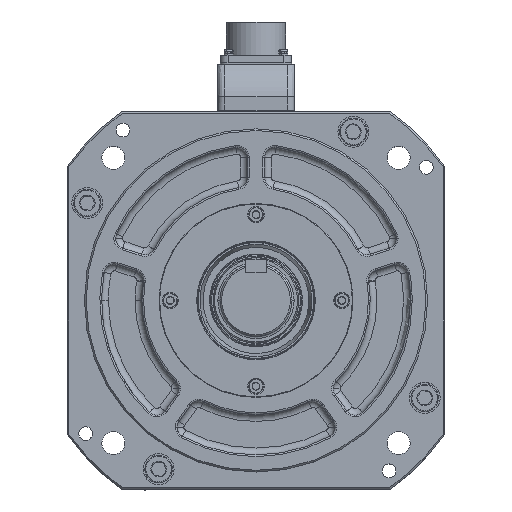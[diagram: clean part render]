
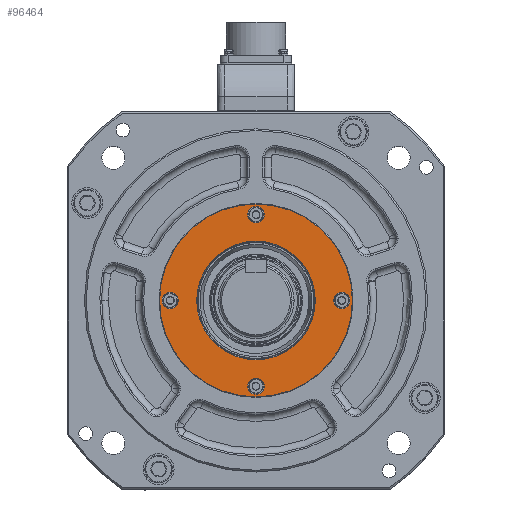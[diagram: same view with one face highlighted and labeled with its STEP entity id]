
A CAD part, top view. The second image highlights one B-rep face of the part: STEP entity #96464.
In plain terms, the highlighted planar face has unit normal (0, 0, 1).
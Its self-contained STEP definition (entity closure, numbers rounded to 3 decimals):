
#21862 = CARTESIAN_POINT ( 'NONE',  ( 0., 0., 24. ) ) ;
#21981 = DIRECTION ( 'NONE',  ( 1., 0., 0. ) ) ;
#21994 = CARTESIAN_POINT ( 'NONE',  ( 0., -50., 24. ) ) ;
#21998 = CARTESIAN_POINT ( 'NONE',  ( 0., -50., 24. ) ) ;
#22004 = DIRECTION ( 'NONE',  ( 0., 0., 1. ) ) ;
#22010 = DIRECTION ( 'NONE',  ( 0., 0., 1. ) ) ;
#22015 = DIRECTION ( 'NONE',  ( 1., 0., 0. ) ) ;
#22017 = DIRECTION ( 'NONE',  ( 1., 0., 0. ) ) ;
#22020 = DIRECTION ( 'NONE',  ( 0., 0., 1. ) ) ;
#22022 = DIRECTION ( 'NONE',  ( 0., 0., 1. ) ) ;
#22028 = DIRECTION ( 'NONE',  ( 0., 0., 1. ) ) ;
#22046 = CARTESIAN_POINT ( 'NONE',  ( 0., 0., 24. ) ) ;
#22066 = DIRECTION ( 'NONE',  ( 1., 0., 0. ) ) ;
#22088 = DIRECTION ( 'NONE',  ( 1., 0., 0. ) ) ;
#22098 = CARTESIAN_POINT ( 'NONE',  ( -50., 0., 24. ) ) ;
#22103 = CARTESIAN_POINT ( 'NONE',  ( 0., 50., 24. ) ) ;
#22122 = DIRECTION ( 'NONE',  ( 0., 0., 1. ) ) ;
#22134 = CARTESIAN_POINT ( 'NONE',  ( 0., 0., 24. ) ) ;
#22137 = DIRECTION ( 'NONE',  ( 0., 0., 1. ) ) ;
#22138 = DIRECTION ( 'NONE',  ( 1., 0., 0. ) ) ;
#22146 = DIRECTION ( 'NONE',  ( 0., 0., 1. ) ) ;
#22148 = DIRECTION ( 'NONE',  ( 1., 0., 0. ) ) ;
#22162 = CARTESIAN_POINT ( 'NONE',  ( 50., 0., 24. ) ) ;
#22175 = DIRECTION ( 'NONE',  ( 0., 0., 1. ) ) ;
#22209 = DIRECTION ( 'NONE',  ( 1., 0., 0. ) ) ;
#22219 = CARTESIAN_POINT ( 'NONE',  ( 0., 0., 24. ) ) ;
#22224 = DIRECTION ( 'NONE',  ( 1., 0., 0. ) ) ;
#22524 = DIRECTION ( 'NONE',  ( 0., 0., 1. ) ) ;
#22526 = CARTESIAN_POINT ( 'NONE',  ( -50., 0., 24. ) ) ;
#22581 = DIRECTION ( 'NONE',  ( 1., 0., 0. ) ) ;
#22670 = CARTESIAN_POINT ( 'NONE',  ( 50., 0., 24. ) ) ;
#22672 = DIRECTION ( 'NONE',  ( 0., 0., 1. ) ) ;
#22679 = DIRECTION ( 'NONE',  ( 1., 0., 0. ) ) ;
#23085 = DIRECTION ( 'NONE',  ( 1., 0., 0. ) ) ;
#23086 = DIRECTION ( 'NONE',  ( 0., 0., 1. ) ) ;
#23111 = CARTESIAN_POINT ( 'NONE',  ( 0., 50., 24. ) ) ;
#26599 = AXIS2_PLACEMENT_3D ( 'NONE', #22134, #22137, #22209 ) ;
#26602 = CIRCLE ( 'NONE', #26605, 56.2 ) ;
#26605 = AXIS2_PLACEMENT_3D ( 'NONE', #21862, #22010, #22066 ) ;
#26607 = AXIS2_PLACEMENT_3D ( 'NONE', #22046, #22028, #22088 ) ;
#26609 = CIRCLE ( 'NONE', #26617, 4.75 ) ;
#26610 = AXIS2_PLACEMENT_3D ( 'NONE', #22162, #22146, #22148 ) ;
#26611 = CIRCLE ( 'NONE', #26620, 4.75 ) ;
#26612 = CIRCLE ( 'NONE', #26639, 4.75 ) ;
#26614 = CIRCLE ( 'NONE', #26607, 34.546 ) ;
#26617 = AXIS2_PLACEMENT_3D ( 'NONE', #22103, #22175, #22138 ) ;
#26620 = AXIS2_PLACEMENT_3D ( 'NONE', #21994, #22022, #22015 ) ;
#26621 = AXIS2_PLACEMENT_3D ( 'NONE', #22098, #22004, #21981 ) ;
#26622 = AXIS2_PLACEMENT_3D ( 'NONE', #22219, #22122, #22224 ) ;
#26639 = AXIS2_PLACEMENT_3D ( 'NONE', #21998, #22020, #22017 ) ;
#26640 = CIRCLE ( 'NONE', #26621, 4.75 ) ;
#26652 = CIRCLE ( 'NONE', #26622, 34.546 ) ;
#26653 = CIRCLE ( 'NONE', #26610, 4.75 ) ;
#26654 = CIRCLE ( 'NONE', #26599, 56.2 ) ;
#26662 = CIRCLE ( 'NONE', #26712, 4.75 ) ;
#26682 = CIRCLE ( 'NONE', #26692, 4.75 ) ;
#26692 = AXIS2_PLACEMENT_3D ( 'NONE', #22526, #22524, #22581 ) ;
#26712 = AXIS2_PLACEMENT_3D ( 'NONE', #22670, #22672, #22679 ) ;
#26724 = CIRCLE ( 'NONE', #26757, 4.75 ) ;
#26757 = AXIS2_PLACEMENT_3D ( 'NONE', #23111, #23086, #23085 ) ;
#43004 = AXIS2_PLACEMENT_3D ( 'NONE', #79554, #79524, #79558 ) ;
#77144 = CARTESIAN_POINT ( 'NONE',  ( 4.75, 50., 24. ) ) ;
#77147 = CARTESIAN_POINT ( 'NONE',  ( -54.75, 0., 24. ) ) ;
#77247 = CARTESIAN_POINT ( 'NONE',  ( -45.25, 0., 24. ) ) ;
#77437 = CARTESIAN_POINT ( 'NONE',  ( 34.546, 0., 24. ) ) ;
#77509 = CARTESIAN_POINT ( 'NONE',  ( -56.2, 0., 24. ) ) ;
#77522 = CARTESIAN_POINT ( 'NONE',  ( -4.75, -50., 24. ) ) ;
#77528 = CARTESIAN_POINT ( 'NONE',  ( 4.75, -50., 24. ) ) ;
#77544 = CARTESIAN_POINT ( 'NONE',  ( -34.546, 0., 24. ) ) ;
#77555 = CARTESIAN_POINT ( 'NONE',  ( -4.75, 50., 24. ) ) ;
#77560 = CARTESIAN_POINT ( 'NONE',  ( 54.75, 0., 24. ) ) ;
#77641 = CARTESIAN_POINT ( 'NONE',  ( 45.25, 0., 24. ) ) ;
#79390 = FACE_BOUND ( 'NONE', #94034, .T. ) ;
#79396 = FACE_BOUND ( 'NONE', #94049, .T. ) ;
#79402 = FACE_BOUND ( 'NONE', #94019, .T. ) ;
#79425 = FACE_BOUND ( 'NONE', #94070, .T. ) ;
#79426 = FACE_OUTER_BOUND ( 'NONE', #94012, .T. ) ;
#79452 = FACE_BOUND ( 'NONE', #94116, .T. ) ;
#79467 = PLANE ( 'NONE',  #43004 ) ;
#79524 = DIRECTION ( 'NONE',  ( 0., 0., -1. ) ) ;
#79554 = CARTESIAN_POINT ( 'NONE',  ( 0., 34.546, 24. ) ) ;
#79558 = DIRECTION ( 'NONE',  ( -1., 0., 0. ) ) ;
#83906 = CARTESIAN_POINT ( 'NONE',  ( 56.2, 0., 24. ) ) ;
#94012 = EDGE_LOOP ( 'NONE', ( #105589, #97365 ) ) ;
#94019 = EDGE_LOOP ( 'NONE', ( #97389, #97371 ) ) ;
#94034 = EDGE_LOOP ( 'NONE', ( #97433, #97471 ) ) ;
#94049 = EDGE_LOOP ( 'NONE', ( #97379, #97456 ) ) ;
#94070 = EDGE_LOOP ( 'NONE', ( #97415, #105752 ) ) ;
#94116 = EDGE_LOOP ( 'NONE', ( #97384, #97377 ) ) ;
#95468 = EDGE_CURVE ( 'NONE', #106939, #103912, #26602, .T. ) ;
#95472 = EDGE_CURVE ( 'NONE', #103918, #103910, #26611, .T. ) ;
#95475 = EDGE_CURVE ( 'NONE', #103910, #103918, #26612, .T. ) ;
#95477 = EDGE_CURVE ( 'NONE', #103954, #103922, #26614, .T. ) ;
#95480 = EDGE_CURVE ( 'NONE', #103781, #103764, #26640, .T. ) ;
#95487 = EDGE_CURVE ( 'NONE', #103922, #103954, #26652, .T. ) ;
#95490 = EDGE_CURVE ( 'NONE', #103912, #106939, #26654, .T. ) ;
#95491 = EDGE_CURVE ( 'NONE', #103980, #104009, #26653, .T. ) ;
#95492 = EDGE_CURVE ( 'NONE', #103948, #103821, #26609, .T. ) ;
#95513 = EDGE_CURVE ( 'NONE', #103764, #103781, #26682, .T. ) ;
#95540 = EDGE_CURVE ( 'NONE', #104009, #103980, #26662, .T. ) ;
#95601 = EDGE_CURVE ( 'NONE', #103821, #103948, #26724, .T. ) ;
#96464 = ADVANCED_FACE ( 'NONE', ( #79452, #79390, #79396, #79402, #79425, #79426 ), #79467, .F. ) ;
#97365 = ORIENTED_EDGE ( 'NONE', *, *, #95468, .T. ) ;
#97371 = ORIENTED_EDGE ( 'NONE', *, *, #95492, .F. ) ;
#97377 = ORIENTED_EDGE ( 'NONE', *, *, #95472, .F. ) ;
#97379 = ORIENTED_EDGE ( 'NONE', *, *, #95480, .F. ) ;
#97384 = ORIENTED_EDGE ( 'NONE', *, *, #95475, .F. ) ;
#97389 = ORIENTED_EDGE ( 'NONE', *, *, #95601, .F. ) ;
#97415 = ORIENTED_EDGE ( 'NONE', *, *, #95477, .F. ) ;
#97433 = ORIENTED_EDGE ( 'NONE', *, *, #95491, .F. ) ;
#97456 = ORIENTED_EDGE ( 'NONE', *, *, #95513, .F. ) ;
#97471 = ORIENTED_EDGE ( 'NONE', *, *, #95540, .F. ) ;
#103764 = VERTEX_POINT ( 'NONE', #77147 ) ;
#103781 = VERTEX_POINT ( 'NONE', #77247 ) ;
#103821 = VERTEX_POINT ( 'NONE', #77144 ) ;
#103910 = VERTEX_POINT ( 'NONE', #77528 ) ;
#103912 = VERTEX_POINT ( 'NONE', #77509 ) ;
#103918 = VERTEX_POINT ( 'NONE', #77522 ) ;
#103922 = VERTEX_POINT ( 'NONE', #77544 ) ;
#103948 = VERTEX_POINT ( 'NONE', #77555 ) ;
#103954 = VERTEX_POINT ( 'NONE', #77437 ) ;
#103980 = VERTEX_POINT ( 'NONE', #77560 ) ;
#104009 = VERTEX_POINT ( 'NONE', #77641 ) ;
#105589 = ORIENTED_EDGE ( 'NONE', *, *, #95490, .T. ) ;
#105752 = ORIENTED_EDGE ( 'NONE', *, *, #95487, .F. ) ;
#106939 = VERTEX_POINT ( 'NONE', #83906 ) ;
